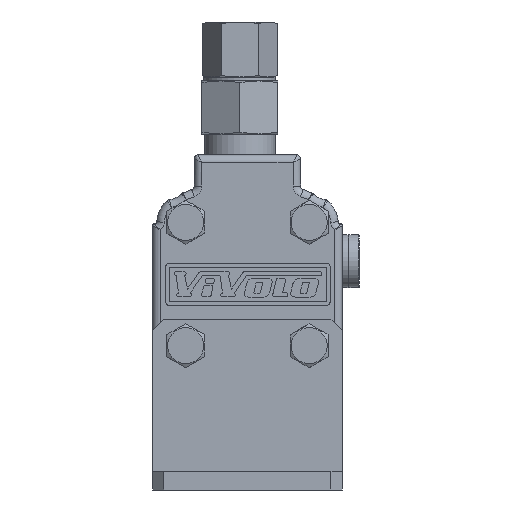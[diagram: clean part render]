
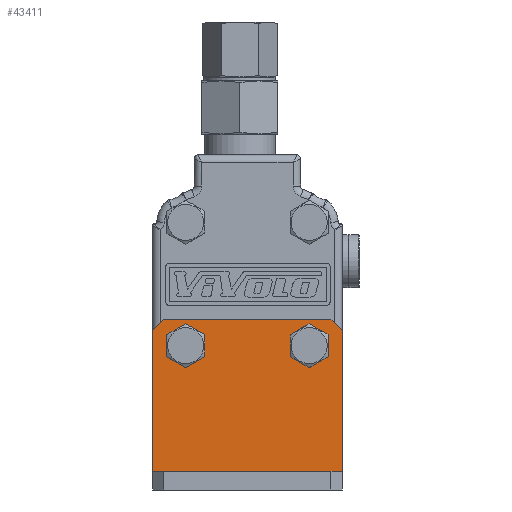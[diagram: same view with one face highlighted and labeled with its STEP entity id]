
A CAD part, front view. The second image highlights one B-rep face of the part: STEP entity #43411.
In plain terms, the highlighted planar face has unit normal (0, -1, 0).
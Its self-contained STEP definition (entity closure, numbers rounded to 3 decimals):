
#1329=LINE('',#62115,#3509);
#1331=LINE('',#62131,#3511);
#1332=LINE('',#62134,#3512);
#1333=LINE('',#62136,#3513);
#1334=LINE('',#62137,#3514);
#1335=LINE('',#62139,#3515);
#3509=VECTOR('',#50075,1000.);
#3511=VECTOR('',#50103,1000.);
#3512=VECTOR('',#50104,1000.);
#3513=VECTOR('',#50105,1000.);
#3514=VECTOR('',#50106,1000.);
#3515=VECTOR('',#50107,1000.);
#7349=ORIENTED_EDGE('',*,*,#15773,.T.);
#7350=ORIENTED_EDGE('',*,*,#15862,.T.);
#7351=ORIENTED_EDGE('',*,*,#15863,.T.);
#7352=ORIENTED_EDGE('',*,*,#15864,.F.);
#7353=ORIENTED_EDGE('',*,*,#15854,.F.);
#7354=ORIENTED_EDGE('',*,*,#15865,.T.);
#7355=ORIENTED_EDGE('',*,*,#15866,.T.);
#7356=ORIENTED_EDGE('',*,*,#15772,.T.);
#15772=EDGE_CURVE('',#20134,#20134,#22897,.T.);
#15773=EDGE_CURVE('',#20135,#20135,#22898,.T.);
#15854=EDGE_CURVE('',#20183,#20184,#1329,.T.);
#15862=EDGE_CURVE('',#20185,#20186,#1331,.T.);
#15863=EDGE_CURVE('',#20186,#20187,#1332,.T.);
#15864=EDGE_CURVE('',#20184,#20187,#1333,.T.);
#15865=EDGE_CURVE('',#20183,#20188,#1334,.T.);
#15866=EDGE_CURVE('',#20188,#20185,#1335,.F.);
#20134=VERTEX_POINT('',#61717);
#20135=VERTEX_POINT('',#61720);
#20183=VERTEX_POINT('',#62114);
#20184=VERTEX_POINT('',#62116);
#20185=VERTEX_POINT('',#62132);
#20186=VERTEX_POINT('',#62133);
#20187=VERTEX_POINT('',#62135);
#20188=VERTEX_POINT('',#62138);
#22897=CIRCLE('',#45443,5.);
#22898=CIRCLE('',#45445,5.);
#24902=EDGE_LOOP('',(#7349));
#24903=EDGE_LOOP('',(#7350,#7351,#7352,#7353,#7354,#7355));
#24904=EDGE_LOOP('',(#7356));
#27120=FACE_BOUND('',#24902,.T.);
#27121=FACE_BOUND('',#24903,.T.);
#27122=FACE_BOUND('',#24904,.T.);
#29214=PLANE('',#45509);
#43411=ADVANCED_FACE('',(#27120,#27121,#27122),#29214,.T.);
#45443=AXIS2_PLACEMENT_3D('',#61716,#49912,#49913);
#45445=AXIS2_PLACEMENT_3D('',#61719,#49916,#49917);
#45509=AXIS2_PLACEMENT_3D('',#62130,#50101,#50102);
#49912=DIRECTION('',(0.,1.,0.));
#49913=DIRECTION('',(0.,0.,1.));
#49916=DIRECTION('',(0.,1.,0.));
#49917=DIRECTION('',(0.,0.,-1.));
#50075=DIRECTION('',(-1.,0.,0.));
#50101=DIRECTION('',(0.,-1.,0.));
#50102=DIRECTION('',(0.,0.,1.));
#50103=DIRECTION('',(-1.,0.,0.));
#50104=DIRECTION('',(-0.707,0.,-0.707));
#50105=DIRECTION('',(0.,0.,1.));
#50106=DIRECTION('',(0.,0.,1.));
#50107=DIRECTION('',(0.707,0.,-0.707));
#61716=CARTESIAN_POINT('',(-16.25,-5.,-16.25));
#61717=CARTESIAN_POINT('',(-16.25,-5.,-11.25));
#61719=CARTESIAN_POINT('',(16.25,-5.,-16.25));
#61720=CARTESIAN_POINT('',(16.25,-5.,-21.25));
#62114=CARTESIAN_POINT('',(25.,-5.,-49.25));
#62115=CARTESIAN_POINT('',(25.,-5.,-49.25));
#62116=CARTESIAN_POINT('',(-25.,-5.,-49.25));
#62130=CARTESIAN_POINT('',(25.,-5.,-49.25));
#62131=CARTESIAN_POINT('',(25.,-5.,-9.25));
#62132=CARTESIAN_POINT('',(22.,-5.,-9.25));
#62133=CARTESIAN_POINT('',(-22.,-5.,-9.25));
#62134=CARTESIAN_POINT('',(-18.5,-5.,-5.75));
#62135=CARTESIAN_POINT('',(-25.,-5.,-12.25));
#62136=CARTESIAN_POINT('',(-25.,-5.,-49.25));
#62137=CARTESIAN_POINT('',(25.,-5.,-49.25));
#62138=CARTESIAN_POINT('',(25.,-5.,-12.25));
#62139=CARTESIAN_POINT('',(43.5,-5.,-30.75));
